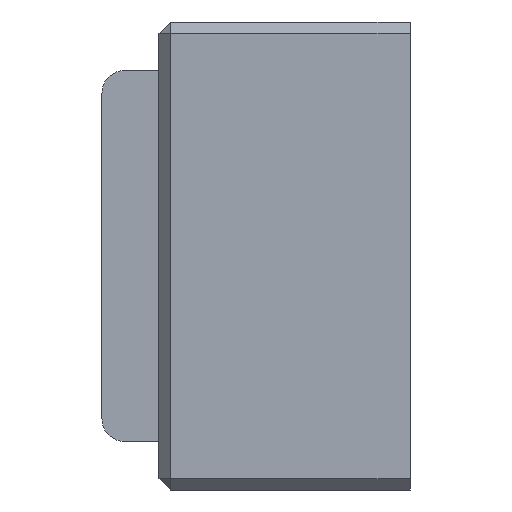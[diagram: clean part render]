
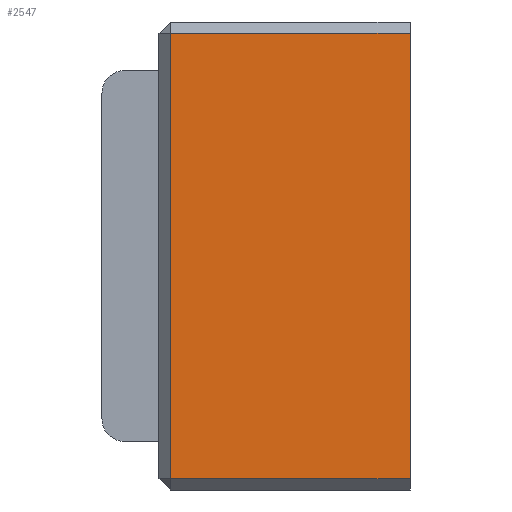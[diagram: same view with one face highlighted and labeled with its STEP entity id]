
A CAD part, left-side view. The second image highlights one B-rep face of the part: STEP entity #2547.
In plain terms, the highlighted planar face has unit normal (-1, 0, 0).
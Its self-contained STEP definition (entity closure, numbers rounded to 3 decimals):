
#83 = CARTESIAN_POINT ( 'NONE',  ( 0., 0., 2. ) ) ;
#428 = EDGE_CURVE ( 'NONE', #1473, #1056, #1163, .T. ) ;
#507 = VECTOR ( 'NONE', #3156, 1000. ) ;
#686 = DIRECTION ( 'NONE',  ( 1., 0., 0. ) ) ;
#787 = CARTESIAN_POINT ( 'NONE',  ( 0., 42., 80. ) ) ;
#804 = FACE_OUTER_BOUND ( 'NONE', #1947, .T. ) ;
#816 = ORIENTED_EDGE ( 'NONE', *, *, #428, .T. ) ;
#962 = VECTOR ( 'NONE', #1561, 1000. ) ;
#1022 = EDGE_CURVE ( 'NONE', #2806, #1473, #2485, .T. ) ;
#1056 = VERTEX_POINT ( 'NONE', #1442 ) ;
#1089 = PLANE ( 'NONE',  #2838 ) ;
#1163 = LINE ( 'NONE', #1583, #962 ) ;
#1177 = ORIENTED_EDGE ( 'NONE', *, *, #1419, .F. ) ;
#1418 = CARTESIAN_POINT ( 'NONE',  ( 0., 0., 80. ) ) ;
#1419 = EDGE_CURVE ( 'NONE', #2806, #3387, #2028, .T. ) ;
#1442 = CARTESIAN_POINT ( 'NONE',  ( 0., 42., 2. ) ) ;
#1455 = DIRECTION ( 'NONE',  ( 0., 1., 0. ) ) ;
#1473 = VERTEX_POINT ( 'NONE', #787 ) ;
#1561 = DIRECTION ( 'NONE',  ( 0., 0., -1. ) ) ;
#1577 = LINE ( 'NONE', #2558, #507 ) ;
#1583 = CARTESIAN_POINT ( 'NONE',  ( 0., 42., 82. ) ) ;
#1930 = CARTESIAN_POINT ( 'NONE',  ( 0., 0., 82. ) ) ;
#1947 = EDGE_LOOP ( 'NONE', ( #1177, #3447, #816, #2266 ) ) ;
#2028 = LINE ( 'NONE', #3552, #2730 ) ;
#2188 = VECTOR ( 'NONE', #1455, 1000. ) ;
#2266 = ORIENTED_EDGE ( 'NONE', *, *, #2915, .T. ) ;
#2485 = LINE ( 'NONE', #1418, #2188 ) ;
#2547 = ADVANCED_FACE ( 'NONE', ( #804 ), #1089, .F. ) ;
#2558 = CARTESIAN_POINT ( 'NONE',  ( 0., 0., 2. ) ) ;
#2677 = DIRECTION ( 'NONE',  ( 0., 0., -1. ) ) ;
#2730 = VECTOR ( 'NONE', #3392, 1000. ) ;
#2806 = VERTEX_POINT ( 'NONE', #3073 ) ;
#2838 = AXIS2_PLACEMENT_3D ( 'NONE', #1930, #686, #2677 ) ;
#2915 = EDGE_CURVE ( 'NONE', #1056, #3387, #1577, .T. ) ;
#3073 = CARTESIAN_POINT ( 'NONE',  ( 0., 0., 80. ) ) ;
#3156 = DIRECTION ( 'NONE',  ( 0., -1., 0. ) ) ;
#3387 = VERTEX_POINT ( 'NONE', #83 ) ;
#3392 = DIRECTION ( 'NONE',  ( 0., 0., -1. ) ) ;
#3447 = ORIENTED_EDGE ( 'NONE', *, *, #1022, .T. ) ;
#3552 = CARTESIAN_POINT ( 'NONE',  ( 0., 0., 82. ) ) ;
